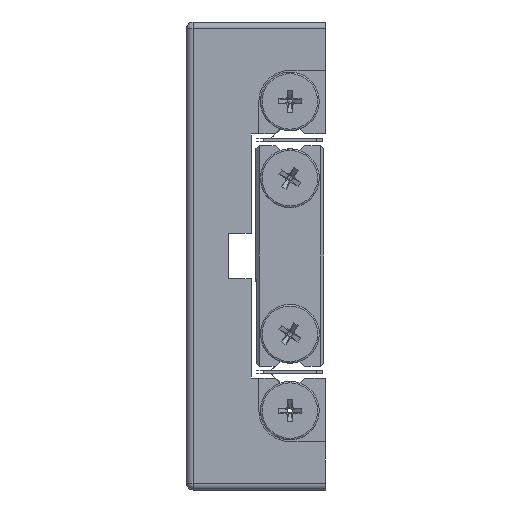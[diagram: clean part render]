
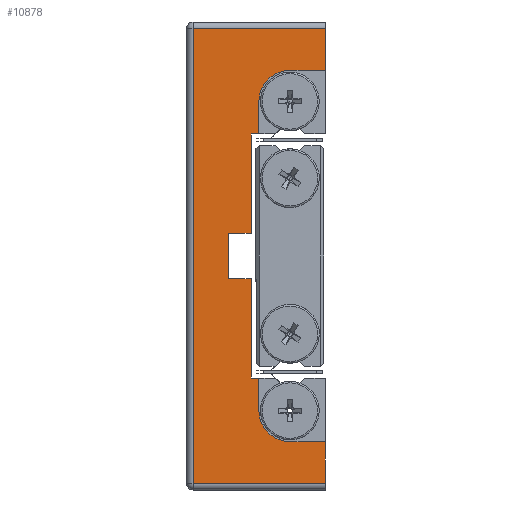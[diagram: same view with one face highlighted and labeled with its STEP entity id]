
A CAD part, left-side view. The second image highlights one B-rep face of the part: STEP entity #10878.
In plain terms, the highlighted planar face has unit normal (-1, 0, 0).
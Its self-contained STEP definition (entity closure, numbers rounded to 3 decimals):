
#48 = EDGE_CURVE ( 'NONE', #10000, #14341, #10152, .T. ) ;
#97 = LINE ( 'NONE', #8670, #9507 ) ;
#211 = CIRCLE ( 'NONE', #11496, 9.6 ) ;
#586 = DIRECTION ( 'NONE',  ( 0., 0., -1. ) ) ;
#693 = ORIENTED_EDGE ( 'NONE', *, *, #19816, .F. ) ;
#833 = VECTOR ( 'NONE', #3462, 1000. ) ;
#991 = VERTEX_POINT ( 'NONE', #10176 ) ;
#1171 = FACE_OUTER_BOUND ( 'NONE', #7585, .T. ) ;
#1352 = VERTEX_POINT ( 'NONE', #3642 ) ;
#1377 = EDGE_CURVE ( 'NONE', #5813, #23589, #9635, .T. ) ;
#1507 = EDGE_CURVE ( 'NONE', #9544, #18700, #7914, .T. ) ;
#1662 = LINE ( 'NONE', #10382, #11647 ) ;
#1779 = VECTOR ( 'NONE', #1819, 1000. ) ;
#1819 = DIRECTION ( 'NONE',  ( 0., 0., 1. ) ) ;
#1904 = EDGE_CURVE ( 'NONE', #18346, #10000, #211, .T. ) ;
#1971 = VERTEX_POINT ( 'NONE', #15576 ) ;
#2211 = VERTEX_POINT ( 'NONE', #23174 ) ;
#2423 = ORIENTED_EDGE ( 'NONE', *, *, #1507, .F. ) ;
#2490 = ORIENTED_EDGE ( 'NONE', *, *, #4336, .F. ) ;
#2562 = CARTESIAN_POINT ( 'NONE',  ( -208.02, 17.775, -57.5 ) ) ;
#2678 = VERTEX_POINT ( 'NONE', #19492 ) ;
#2957 = AXIS2_PLACEMENT_3D ( 'NONE', #3560, #16704, #5460 ) ;
#3110 = CARTESIAN_POINT ( 'NONE',  ( -208.02, 36.775, -7. ) ) ;
#3165 = VECTOR ( 'NONE', #7451, 1000. ) ;
#3194 = LINE ( 'NONE', #12581, #17345 ) ;
#3364 = PLANE ( 'NONE',  #23413 ) ;
#3462 = DIRECTION ( 'NONE',  ( 0., 0., -1. ) ) ;
#3560 = CARTESIAN_POINT ( 'NONE',  ( -208.02, 17.775, -47.9 ) ) ;
#3632 = LINE ( 'NONE', #23698, #17455 ) ;
#3642 = CARTESIAN_POINT ( 'NONE',  ( -208.02, 29.775, 37.8 ) ) ;
#4182 = CARTESIAN_POINT ( 'NONE',  ( -208.02, 29.775, -37.8 ) ) ;
#4307 = VECTOR ( 'NONE', #20562, 1000. ) ;
#4336 = EDGE_CURVE ( 'NONE', #23589, #10368, #3632, .T. ) ;
#4476 = VECTOR ( 'NONE', #19612, 1000. ) ;
#4524 = DIRECTION ( 'NONE',  ( 0., -1., 0. ) ) ;
#4975 = DIRECTION ( 'NONE',  ( 0., 0., -1. ) ) ;
#5144 = ORIENTED_EDGE ( 'NONE', *, *, #20141, .F. ) ;
#5164 = VECTOR ( 'NONE', #10701, 1000. ) ;
#5296 = VERTEX_POINT ( 'NONE', #16866 ) ;
#5339 = DIRECTION ( 'NONE',  ( -1., 0., 0. ) ) ;
#5460 = DIRECTION ( 'NONE',  ( 0., 0., 1. ) ) ;
#5813 = VERTEX_POINT ( 'NONE', #14452 ) ;
#5891 = VECTOR ( 'NONE', #6436, 1000. ) ;
#6109 = DIRECTION ( 'NONE',  ( 0., 0., -1. ) ) ;
#6436 = DIRECTION ( 'NONE',  ( 0., 1., 0. ) ) ;
#6840 = ORIENTED_EDGE ( 'NONE', *, *, #10364, .T. ) ;
#7370 = CARTESIAN_POINT ( 'NONE',  ( -208.02, 36.775, -7. ) ) ;
#7442 = ORIENTED_EDGE ( 'NONE', *, *, #1377, .F. ) ;
#7451 = DIRECTION ( 'NONE',  ( 0., 1., 0. ) ) ;
#7585 = EDGE_LOOP ( 'NONE', ( #18071, #21908, #9647, #10899, #23315, #2423, #8029, #12234, #2490, #7442, #5144, #693, #15560, #9903, #8976, #16110, #6840, #9946 ) ) ;
#7610 = EDGE_CURVE ( 'NONE', #14341, #1352, #15863, .T. ) ;
#7682 = CARTESIAN_POINT ( 'NONE',  ( -208.02, 6.775, -57.5 ) ) ;
#7907 = CIRCLE ( 'NONE', #2957, 9.6 ) ;
#7914 = LINE ( 'NONE', #23006, #21681 ) ;
#7915 = VECTOR ( 'NONE', #15641, 1000. ) ;
#8029 = ORIENTED_EDGE ( 'NONE', *, *, #9308, .F. ) ;
#8087 = EDGE_CURVE ( 'NONE', #2678, #10415, #17466, .T. ) ;
#8118 = CARTESIAN_POINT ( 'NONE',  ( -208.02, 27.375, -47.9 ) ) ;
#8224 = EDGE_CURVE ( 'NONE', #18139, #18346, #97, .T. ) ;
#8670 = CARTESIAN_POINT ( 'NONE',  ( -208.02, 17.775, 57.5 ) ) ;
#8741 = VECTOR ( 'NONE', #6109, 1000. ) ;
#8768 = LINE ( 'NONE', #13145, #3165 ) ;
#8976 = ORIENTED_EDGE ( 'NONE', *, *, #1904, .F. ) ;
#9037 = DIRECTION ( 'NONE',  ( 1., 0., 0. ) ) ;
#9308 = EDGE_CURVE ( 'NONE', #1971, #9544, #10049, .T. ) ;
#9314 = CARTESIAN_POINT ( 'NONE',  ( -208.02, 49.775, 70.5 ) ) ;
#9507 = VECTOR ( 'NONE', #10558, 1000. ) ;
#9544 = VERTEX_POINT ( 'NONE', #11060 ) ;
#9635 = LINE ( 'NONE', #3110, #833 ) ;
#9647 = ORIENTED_EDGE ( 'NONE', *, *, #8087, .T. ) ;
#9903 = ORIENTED_EDGE ( 'NONE', *, *, #48, .F. ) ;
#9946 = ORIENTED_EDGE ( 'NONE', *, *, #22112, .T. ) ;
#10000 = VERTEX_POINT ( 'NONE', #22559 ) ;
#10049 = LINE ( 'NONE', #11995, #4476 ) ;
#10068 = CARTESIAN_POINT ( 'NONE',  ( -208.02, 47.775, -70.5 ) ) ;
#10152 = LINE ( 'NONE', #13726, #5164 ) ;
#10176 = CARTESIAN_POINT ( 'NONE',  ( -208.02, 17.775, -57.5 ) ) ;
#10364 = EDGE_CURVE ( 'NONE', #18139, #5296, #21764, .T. ) ;
#10368 = VERTEX_POINT ( 'NONE', #24357 ) ;
#10382 = CARTESIAN_POINT ( 'NONE',  ( -208.02, 49.775, -70.5 ) ) ;
#10415 = VERTEX_POINT ( 'NONE', #7682 ) ;
#10501 = CARTESIAN_POINT ( 'NONE',  ( -208.02, 17.775, 57.5 ) ) ;
#10558 = DIRECTION ( 'NONE',  ( 0., 1., 0. ) ) ;
#10701 = DIRECTION ( 'NONE',  ( 0., 0., -1. ) ) ;
#10878 = ADVANCED_FACE ( 'NONE', ( #1171 ), #3364, .F. ) ;
#10899 = ORIENTED_EDGE ( 'NONE', *, *, #12393, .F. ) ;
#11060 = CARTESIAN_POINT ( 'NONE',  ( -208.02, 27.375, -37.8 ) ) ;
#11179 = CARTESIAN_POINT ( 'NONE',  ( -208.02, 6.775, -72.5 ) ) ;
#11496 = AXIS2_PLACEMENT_3D ( 'NONE', #23508, #5339, #14999 ) ;
#11647 = VECTOR ( 'NONE', #21618, 1000. ) ;
#11730 = EDGE_CURVE ( 'NONE', #14539, #21792, #3194, .T. ) ;
#11995 = CARTESIAN_POINT ( 'NONE',  ( -208.02, 6.775, -37.8 ) ) ;
#12234 = ORIENTED_EDGE ( 'NONE', *, *, #13994, .F. ) ;
#12393 = EDGE_CURVE ( 'NONE', #991, #10415, #18743, .T. ) ;
#12444 = VECTOR ( 'NONE', #22962, 1000. ) ;
#12581 = CARTESIAN_POINT ( 'NONE',  ( -208.02, 47.775, -72.5 ) ) ;
#13145 = CARTESIAN_POINT ( 'NONE',  ( -208.02, 36.775, 7. ) ) ;
#13328 = EDGE_CURVE ( 'NONE', #18700, #991, #7907, .T. ) ;
#13726 = CARTESIAN_POINT ( 'NONE',  ( -208.02, 27.375, 47.9 ) ) ;
#13766 = CARTESIAN_POINT ( 'NONE',  ( -208.02, 29.775, 7. ) ) ;
#13913 = DIRECTION ( 'NONE',  ( 0., -1., 0. ) ) ;
#13994 = EDGE_CURVE ( 'NONE', #10368, #1971, #23750, .T. ) ;
#14341 = VERTEX_POINT ( 'NONE', #24309 ) ;
#14452 = CARTESIAN_POINT ( 'NONE',  ( -208.02, 36.775, 7. ) ) ;
#14539 = VERTEX_POINT ( 'NONE', #19335 ) ;
#14999 = DIRECTION ( 'NONE',  ( 0., 0., -1. ) ) ;
#15560 = ORIENTED_EDGE ( 'NONE', *, *, #7610, .F. ) ;
#15576 = CARTESIAN_POINT ( 'NONE',  ( -208.02, 29.775, -37.8 ) ) ;
#15641 = DIRECTION ( 'NONE',  ( 0., 0., -1. ) ) ;
#15743 = CARTESIAN_POINT ( 'NONE',  ( -208.02, 29.775, 37.8 ) ) ;
#15863 = LINE ( 'NONE', #15743, #5891 ) ;
#16110 = ORIENTED_EDGE ( 'NONE', *, *, #8224, .F. ) ;
#16704 = DIRECTION ( 'NONE',  ( -1., 0., 0. ) ) ;
#16866 = CARTESIAN_POINT ( 'NONE',  ( -208.02, 6.775, 70.5 ) ) ;
#17292 = CARTESIAN_POINT ( 'NONE',  ( -208.02, 6.775, -72.5 ) ) ;
#17345 = VECTOR ( 'NONE', #4975, 1000. ) ;
#17455 = VECTOR ( 'NONE', #13913, 1000. ) ;
#17466 = LINE ( 'NONE', #17292, #12444 ) ;
#18071 = ORIENTED_EDGE ( 'NONE', *, *, #11730, .T. ) ;
#18106 = LINE ( 'NONE', #9314, #4307 ) ;
#18139 = VERTEX_POINT ( 'NONE', #22757 ) ;
#18346 = VERTEX_POINT ( 'NONE', #10501 ) ;
#18700 = VERTEX_POINT ( 'NONE', #8118 ) ;
#18743 = LINE ( 'NONE', #2562, #23208 ) ;
#19335 = CARTESIAN_POINT ( 'NONE',  ( -208.02, 47.775, 70.5 ) ) ;
#19492 = CARTESIAN_POINT ( 'NONE',  ( -208.02, 6.775, -70.5 ) ) ;
#19612 = DIRECTION ( 'NONE',  ( 0., -1., 0. ) ) ;
#19816 = EDGE_CURVE ( 'NONE', #1352, #2211, #22874, .T. ) ;
#20141 = EDGE_CURVE ( 'NONE', #2211, #5813, #8768, .T. ) ;
#20276 = CARTESIAN_POINT ( 'NONE',  ( -208.02, 49.775, -72.5 ) ) ;
#20562 = DIRECTION ( 'NONE',  ( 0., 1., 0. ) ) ;
#21618 = DIRECTION ( 'NONE',  ( 0., -1., 0. ) ) ;
#21681 = VECTOR ( 'NONE', #586, 1000. ) ;
#21764 = LINE ( 'NONE', #11179, #1779 ) ;
#21792 = VERTEX_POINT ( 'NONE', #10068 ) ;
#21908 = ORIENTED_EDGE ( 'NONE', *, *, #23878, .T. ) ;
#22112 = EDGE_CURVE ( 'NONE', #5296, #14539, #18106, .T. ) ;
#22172 = DIRECTION ( 'NONE',  ( 0., 0., -1. ) ) ;
#22559 = CARTESIAN_POINT ( 'NONE',  ( -208.02, 27.375, 47.9 ) ) ;
#22757 = CARTESIAN_POINT ( 'NONE',  ( -208.02, 6.775, 57.5 ) ) ;
#22874 = LINE ( 'NONE', #13766, #7915 ) ;
#22962 = DIRECTION ( 'NONE',  ( 0., 0., 1. ) ) ;
#23006 = CARTESIAN_POINT ( 'NONE',  ( -208.02, 27.375, -47.9 ) ) ;
#23174 = CARTESIAN_POINT ( 'NONE',  ( -208.02, 29.775, 7. ) ) ;
#23208 = VECTOR ( 'NONE', #4524, 1000. ) ;
#23315 = ORIENTED_EDGE ( 'NONE', *, *, #13328, .F. ) ;
#23413 = AXIS2_PLACEMENT_3D ( 'NONE', #20276, #9037, #22172 ) ;
#23508 = CARTESIAN_POINT ( 'NONE',  ( -208.02, 17.775, 47.9 ) ) ;
#23589 = VERTEX_POINT ( 'NONE', #7370 ) ;
#23698 = CARTESIAN_POINT ( 'NONE',  ( -208.02, 29.775, -7. ) ) ;
#23750 = LINE ( 'NONE', #4182, #8741 ) ;
#23878 = EDGE_CURVE ( 'NONE', #21792, #2678, #1662, .T. ) ;
#24309 = CARTESIAN_POINT ( 'NONE',  ( -208.02, 27.375, 37.8 ) ) ;
#24357 = CARTESIAN_POINT ( 'NONE',  ( -208.02, 29.775, -7. ) ) ;
